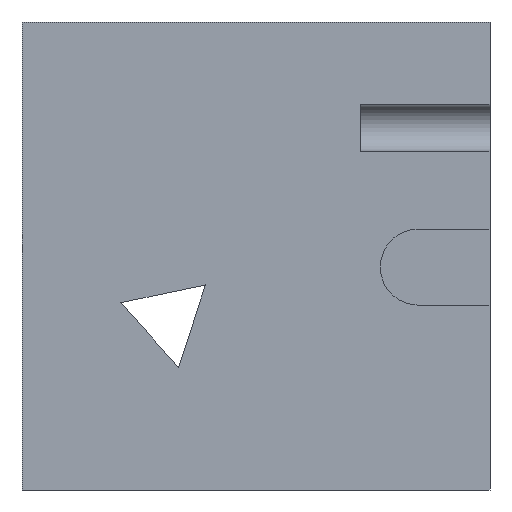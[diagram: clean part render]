
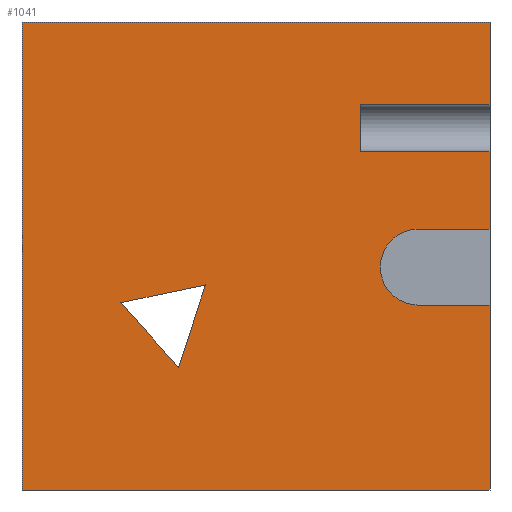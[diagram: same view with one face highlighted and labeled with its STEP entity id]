
A CAD part, left-side view. The second image highlights one B-rep face of the part: STEP entity #1041.
In plain terms, the highlighted planar face has unit normal (-1, 0, 0).
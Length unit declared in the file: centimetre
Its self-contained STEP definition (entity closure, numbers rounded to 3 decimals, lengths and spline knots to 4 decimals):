
#2 = DIRECTION ( 'NONE',  ( 0., 0., -1. ) ) ;
#7 = VERTEX_POINT ( 'NONE', #936 ) ;
#25 = CARTESIAN_POINT ( 'NONE',  ( 0., 277.0445, 722.5172 ) ) ;
#26 = EDGE_CURVE ( 'NONE', #576, #1011, #1075, .T. ) ;
#30 = VECTOR ( 'NONE', #667, 100. ) ;
#41 = EDGE_CURVE ( 'NONE', #417, #1161, #569, .T. ) ;
#63 = DIRECTION ( 'NONE',  ( 0., -0.667, -0.745 ) ) ;
#69 = ORIENTED_EDGE ( 'NONE', *, *, #82, .F. ) ;
#74 = LINE ( 'NONE', #798, #1135 ) ;
#82 = EDGE_CURVE ( 'NONE', #408, #1042, #357, .T. ) ;
#96 = VERTEX_POINT ( 'NONE', #648 ) ;
#99 = DIRECTION ( 'NONE',  ( 0., -1., 0. ) ) ;
#114 = DIRECTION ( 'NONE',  ( -1., 0., 0. ) ) ;
#163 = AXIS2_PLACEMENT_3D ( 'NONE', #818, #186, #2 ) ;
#176 = CARTESIAN_POINT ( 'NONE',  ( 0., 0., 557.4804 ) ) ;
#183 = LINE ( 'NONE', #731, #504 ) ;
#186 = DIRECTION ( 'NONE',  ( 1., 0., 0. ) ) ;
#192 = VERTEX_POINT ( 'NONE', #1118 ) ;
#197 = CARTESIAN_POINT ( 'NONE',  ( 0., 665.5435, 262.3366 ) ) ;
#208 = VECTOR ( 'NONE', #303, 100. ) ;
#217 = LINE ( 'NONE', #487, #478 ) ;
#227 = DIRECTION ( 'NONE',  ( 0., 1., 0. ) ) ;
#247 = CARTESIAN_POINT ( 'NONE',  ( 0., 277.0445, 722.5172 ) ) ;
#250 = ORIENTED_EDGE ( 'NONE', *, *, #41, .F. ) ;
#252 = EDGE_CURVE ( 'NONE', #417, #192, #217, .T. ) ;
#255 = DIRECTION ( 'NONE',  ( 0., 0., -1. ) ) ;
#261 = VECTOR ( 'NONE', #63, 100. ) ;
#279 = FACE_BOUND ( 'NONE', #619, .T. ) ;
#280 = EDGE_CURVE ( 'NONE', #1042, #297, #1115, .T. ) ;
#287 = ORIENTED_EDGE ( 'NONE', *, *, #826, .F. ) ;
#296 = VECTOR ( 'NONE', #373, 100. ) ;
#297 = VERTEX_POINT ( 'NONE', #970 ) ;
#303 = DIRECTION ( 'NONE',  ( 0., -1., 0. ) ) ;
#331 = CARTESIAN_POINT ( 'NONE',  ( 0., 788.9362, 400.1839 ) ) ;
#338 = CARTESIAN_POINT ( 'NONE',  ( 0., 277.0445, 1000. ) ) ;
#346 = VECTOR ( 'NONE', #858, 100. ) ;
#353 = VECTOR ( 'NONE', #255, 100. ) ;
#357 = CIRCLE ( 'NONE', #1025, 81.1948 ) ;
#364 = EDGE_CURVE ( 'NONE', #1011, #7, #74, .T. ) ;
#367 = FACE_OUTER_BOUND ( 'NONE', #1138, .T. ) ;
#373 = DIRECTION ( 'NONE',  ( 0., 0.979, -0.205 ) ) ;
#377 = DIRECTION ( 'NONE',  ( 0., -1., 0. ) ) ;
#397 = VERTEX_POINT ( 'NONE', #512 ) ;
#400 = CARTESIAN_POINT ( 'NONE',  ( 0., 0., 1000. ) ) ;
#401 = DIRECTION ( 'NONE',  ( 0., 0., -1. ) ) ;
#408 = VERTEX_POINT ( 'NONE', #611 ) ;
#417 = VERTEX_POINT ( 'NONE', #907 ) ;
#440 = ORIENTED_EDGE ( 'NONE', *, *, #466, .T. ) ;
#447 = LINE ( 'NONE', #338, #353 ) ;
#462 = CARTESIAN_POINT ( 'NONE',  ( 0., 607.8606, 438.1215 ) ) ;
#465 = DIRECTION ( 'NONE',  ( 0., -1., 0. ) ) ;
#466 = EDGE_CURVE ( 'NONE', #397, #927, #183, .T. ) ;
#474 = EDGE_CURVE ( 'NONE', #192, #633, #1179, .T. ) ;
#478 = VECTOR ( 'NONE', #401, 100. ) ;
#484 = LINE ( 'NONE', #786, #346 ) ;
#487 = CARTESIAN_POINT ( 'NONE',  ( 0., 1000., 1000. ) ) ;
#503 = VECTOR ( 'NONE', #227, 100. ) ;
#504 = VECTOR ( 'NONE', #99, 100. ) ;
#512 = CARTESIAN_POINT ( 'NONE',  ( 0., 277.0445, 824.1166 ) ) ;
#537 = ORIENTED_EDGE ( 'NONE', *, *, #764, .F. ) ;
#569 = LINE ( 'NONE', #917, #1080 ) ;
#576 = VERTEX_POINT ( 'NONE', #614 ) ;
#611 = CARTESIAN_POINT ( 'NONE',  ( 0., 153.2302, 557.4804 ) ) ;
#614 = CARTESIAN_POINT ( 'NONE',  ( 0., 788.9362, 400.1839 ) ) ;
#616 = EDGE_CURVE ( 'NONE', #96, #705, #484, .T. ) ;
#619 = EDGE_LOOP ( 'NONE', ( #1056, #693, #772 ) ) ;
#620 = DIRECTION ( 'NONE',  ( 0., -1., 0. ) ) ;
#633 = VERTEX_POINT ( 'NONE', #863 ) ;
#637 = EDGE_CURVE ( 'NONE', #705, #408, #840, .T. ) ;
#643 = CARTESIAN_POINT ( 'NONE',  ( 0., 153.2302, 395.0908 ) ) ;
#648 = CARTESIAN_POINT ( 'NONE',  ( 0., 0., 722.5172 ) ) ;
#656 = VERTEX_POINT ( 'NONE', #25 ) ;
#667 = DIRECTION ( 'NONE',  ( 0., 0., -1. ) ) ;
#683 = CARTESIAN_POINT ( 'NONE',  ( 0., 0., 1000. ) ) ;
#692 = CARTESIAN_POINT ( 'NONE',  ( 0., 0., 824.1166 ) ) ;
#693 = ORIENTED_EDGE ( 'NONE', *, *, #26, .F. ) ;
#701 = ORIENTED_EDGE ( 'NONE', *, *, #474, .T. ) ;
#705 = VERTEX_POINT ( 'NONE', #176 ) ;
#719 = VECTOR ( 'NONE', #985, 100. ) ;
#731 = CARTESIAN_POINT ( 'NONE',  ( 0., 277.0445, 824.1166 ) ) ;
#764 = EDGE_CURVE ( 'NONE', #656, #96, #898, .T. ) ;
#772 = ORIENTED_EDGE ( 'NONE', *, *, #969, .F. ) ;
#786 = CARTESIAN_POINT ( 'NONE',  ( 0., 0., 1000. ) ) ;
#797 = ORIENTED_EDGE ( 'NONE', *, *, #886, .F. ) ;
#798 = CARTESIAN_POINT ( 'NONE',  ( 0., 665.5435, 262.3366 ) ) ;
#803 = CARTESIAN_POINT ( 'NONE',  ( 0., 0., 1000. ) ) ;
#809 = DIRECTION ( 'NONE',  ( 0., -0.312, 0.95 ) ) ;
#818 = CARTESIAN_POINT ( 'NONE',  ( 0., 1000., 1000. ) ) ;
#825 = VECTOR ( 'NONE', #620, 100. ) ;
#826 = EDGE_CURVE ( 'NONE', #297, #633, #960, .T. ) ;
#833 = DIRECTION ( 'NONE',  ( 0., 0., -1. ) ) ;
#835 = ORIENTED_EDGE ( 'NONE', *, *, #637, .F. ) ;
#837 = CARTESIAN_POINT ( 'NONE',  ( 0., 1000., 0. ) ) ;
#840 = LINE ( 'NONE', #1045, #503 ) ;
#858 = DIRECTION ( 'NONE',  ( 0., 0., -1. ) ) ;
#863 = CARTESIAN_POINT ( 'NONE',  ( 0., 0., 0. ) ) ;
#886 = EDGE_CURVE ( 'NONE', #397, #656, #447, .T. ) ;
#898 = LINE ( 'NONE', #247, #825 ) ;
#901 = LINE ( 'NONE', #462, #296 ) ;
#907 = CARTESIAN_POINT ( 'NONE',  ( 0., 1000., 1000. ) ) ;
#917 = CARTESIAN_POINT ( 'NONE',  ( 0., 1000., 1000. ) ) ;
#927 = VERTEX_POINT ( 'NONE', #692 ) ;
#936 = CARTESIAN_POINT ( 'NONE',  ( 0., 607.8606, 438.1215 ) ) ;
#942 = CARTESIAN_POINT ( 'NONE',  ( 0., 0., 395.0908 ) ) ;
#960 = LINE ( 'NONE', #803, #719 ) ;
#969 = EDGE_CURVE ( 'NONE', #7, #576, #901, .T. ) ;
#970 = CARTESIAN_POINT ( 'NONE',  ( 0., 0., 395.0908 ) ) ;
#985 = DIRECTION ( 'NONE',  ( 0., 0., -1. ) ) ;
#991 = ORIENTED_EDGE ( 'NONE', *, *, #1154, .F. ) ;
#1011 = VERTEX_POINT ( 'NONE', #197 ) ;
#1025 = AXIS2_PLACEMENT_3D ( 'NONE', #1182, #114, #833 ) ;
#1041 = ADVANCED_FACE ( 'NONE', ( #279, #367 ), #1088, .F. ) ;
#1042 = VERTEX_POINT ( 'NONE', #643 ) ;
#1045 = CARTESIAN_POINT ( 'NONE',  ( 0., 153.2302, 557.4804 ) ) ;
#1051 = ORIENTED_EDGE ( 'NONE', *, *, #616, .F. ) ;
#1056 = ORIENTED_EDGE ( 'NONE', *, *, #364, .F. ) ;
#1075 = LINE ( 'NONE', #331, #261 ) ;
#1076 = ORIENTED_EDGE ( 'NONE', *, *, #252, .T. ) ;
#1080 = VECTOR ( 'NONE', #465, 100. ) ;
#1088 = PLANE ( 'NONE',  #163 ) ;
#1106 = LINE ( 'NONE', #400, #30 ) ;
#1115 = LINE ( 'NONE', #942, #208 ) ;
#1118 = CARTESIAN_POINT ( 'NONE',  ( 0., 1000., 0. ) ) ;
#1133 = ORIENTED_EDGE ( 'NONE', *, *, #280, .F. ) ;
#1135 = VECTOR ( 'NONE', #809, 100. ) ;
#1138 = EDGE_LOOP ( 'NONE', ( #287, #1133, #69, #835, #1051, #537, #797, #440, #991, #250, #1076, #701 ) ) ;
#1154 = EDGE_CURVE ( 'NONE', #1161, #927, #1106, .T. ) ;
#1161 = VERTEX_POINT ( 'NONE', #683 ) ;
#1172 = VECTOR ( 'NONE', #377, 100. ) ;
#1179 = LINE ( 'NONE', #837, #1172 ) ;
#1182 = CARTESIAN_POINT ( 'NONE',  ( 0., 153.2302, 476.2856 ) ) ;
